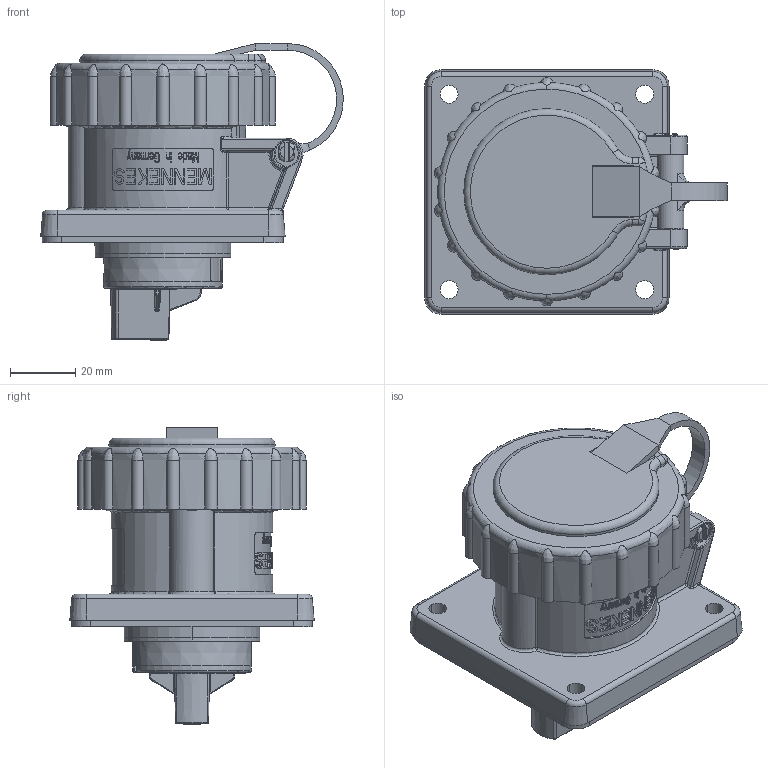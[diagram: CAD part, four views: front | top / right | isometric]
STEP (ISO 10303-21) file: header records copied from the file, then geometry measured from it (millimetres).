
FILE_DESCRIPTION((''),'2;1');
FILE_NAME('1107469_ASM_SW0001','2017-10-20T',('gisse'),('MENNEKES'),'PRO/ENGINEER BY PARAMETRIC TECHNOLOGY CORPORATION, 2015440','PRO/ENGINEER BY PARAMETRIC TECHNOLOGY CORPORATION, 2015440','');
FILE_SCHEMA(('AUTOMOTIVE_DESIGN { 1 0 10303 214 1 1 1 1 }'));
Products named in the file (1): 1107469_ASM_SW0001
Bounding box: 92.86 x 75 x 91.1 mm (x, y, z)
Volume: 203093 mm3; surface area: 34908.8 mm2
Topology: 1 solids, 1 shells, 1730 faces, 4719 edges, 3061 vertices
Faces by surface type: plane 1227, cylinder 277, bspline 118, torus 68, cone 30, sphere 10
Entity records: 94957 total; most frequent: CARTESIAN_POINT 18292, ORIENTED_EDGE 9438, DIRECTION 7755, PRESENTATION_STYLE_ASSIGNMENT 6391, STYLED_ITEM 4720, CURVE_STYLE 4719, EDGE_CURVE 4719, FILL_AREA_STYLE_COLOUR 3343
